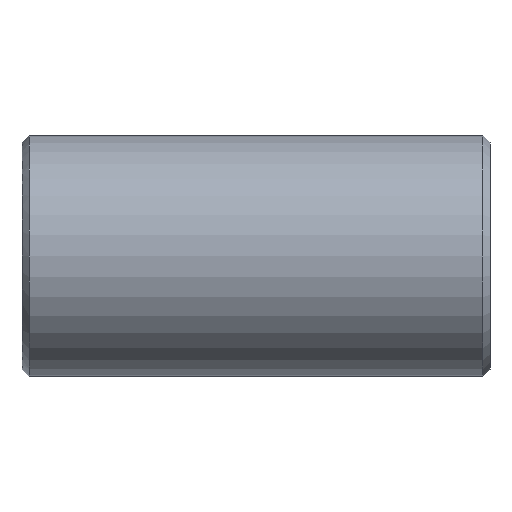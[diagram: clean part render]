
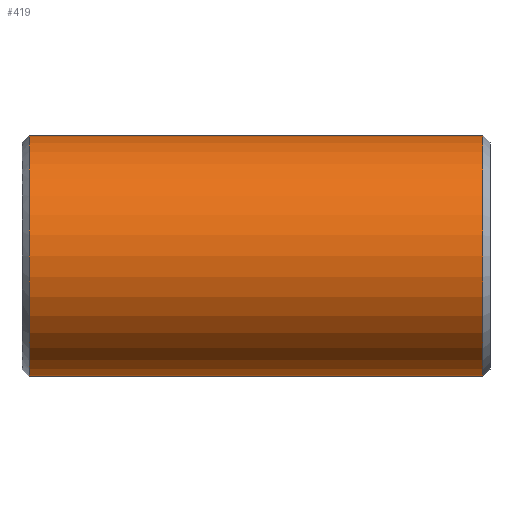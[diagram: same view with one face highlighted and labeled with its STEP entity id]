
A CAD part, front view. The second image highlights one B-rep face of the part: STEP entity #419.
In plain terms, the highlighted cylindrical face has radius 17 mm (diameter 34 mm), a partial arc.
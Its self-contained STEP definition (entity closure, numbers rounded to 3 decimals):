
#231=CARTESIAN_POINT('Vertex',(1.,0.,-17.)) ;
#238=CARTESIAN_POINT('Vertex',(1.,0.,17.)) ;
#267=CARTESIAN_POINT('Axis2P3D Location',(1.,0.,0.)) ;
#271=CARTESIAN_POINT('Vertex',(1.,-17.,0.)) ;
#274=CARTESIAN_POINT('Axis2P3D Location',(1.,0.,0.)) ;
#359=CARTESIAN_POINT('Line Origine',(66.,0.,17.)) ;
#363=CARTESIAN_POINT('Vertex',(65.,0.,17.)) ;
#377=CARTESIAN_POINT('Vertex',(65.,0.,-17.)) ;
#380=CARTESIAN_POINT('Line Origine',(66.,0.,-17.)) ;
#394=CARTESIAN_POINT('Axis2P3D Location',(66.,0.,0.)) ;
#399=CARTESIAN_POINT('Axis2P3D Location',(65.,0.,0.)) ;
#403=CARTESIAN_POINT('Vertex',(65.,-17.,0.)) ;
#406=CARTESIAN_POINT('Axis2P3D Location',(65.,0.,0.)) ;
#268=DIRECTION('Axis2P3D Direction',(1.,0.,-0.)) ;
#275=DIRECTION('Axis2P3D Direction',(1.,0.,-0.)) ;
#360=DIRECTION('Vector Direction',(-1.,0.,0.)) ;
#381=DIRECTION('Vector Direction',(-1.,0.,0.)) ;
#395=DIRECTION('Axis2P3D Direction',(-1.,-0.,-0.)) ;
#396=DIRECTION('Axis2P3D XDirection',(0.,0.,-1.)) ;
#400=DIRECTION('Axis2P3D Direction',(-1.,-0.,-0.)) ;
#407=DIRECTION('Axis2P3D Direction',(-1.,-0.,-0.)) ;
#269=AXIS2_PLACEMENT_3D('Circle Axis2P3D',#267,#268,$) ;
#276=AXIS2_PLACEMENT_3D('Circle Axis2P3D',#274,#275,$) ;
#397=AXIS2_PLACEMENT_3D('Cylinder Axis2P3D',#394,#395,#396) ;
#401=AXIS2_PLACEMENT_3D('Circle Axis2P3D',#399,#400,$) ;
#408=AXIS2_PLACEMENT_3D('Circle Axis2P3D',#406,#407,$) ;
#412=ORIENTED_EDGE('',*,*,#384,.T.) ;
#413=ORIENTED_EDGE('',*,*,#405,.F.) ;
#414=ORIENTED_EDGE('',*,*,#410,.F.) ;
#415=ORIENTED_EDGE('',*,*,#365,.T.) ;
#416=ORIENTED_EDGE('',*,*,#278,.T.) ;
#417=ORIENTED_EDGE('',*,*,#273,.T.) ;
#361=VECTOR('Line Direction',#360,1.) ;
#382=VECTOR('Line Direction',#381,1.) ;
#419=ADVANCED_FACE('352-25X66',(#418),#398,.T.) ;
#270=CIRCLE('generated circle',#269,17.) ;
#277=CIRCLE('generated circle',#276,17.) ;
#402=CIRCLE('generated circle',#401,17.) ;
#409=CIRCLE('generated circle',#408,17.) ;
#398=CYLINDRICAL_SURFACE('generated cylinder',#397,17.) ;
#273=EDGE_CURVE('',#272,#232,#270,.T.) ;
#278=EDGE_CURVE('',#239,#272,#277,.T.) ;
#365=EDGE_CURVE('',#364,#239,#362,.T.) ;
#384=EDGE_CURVE('',#232,#378,#383,.F.) ;
#405=EDGE_CURVE('',#404,#378,#402,.F.) ;
#410=EDGE_CURVE('',#364,#404,#409,.F.) ;
#411=EDGE_LOOP('',(#412,#413,#414,#415,#416,#417)) ;
#418=FACE_OUTER_BOUND('',#411,.T.) ;
#362=LINE('Line',#359,#361) ;
#383=LINE('Line',#380,#382) ;
#232=VERTEX_POINT('',#231) ;
#239=VERTEX_POINT('',#238) ;
#272=VERTEX_POINT('',#271) ;
#364=VERTEX_POINT('',#363) ;
#378=VERTEX_POINT('',#377) ;
#404=VERTEX_POINT('',#403) ;
